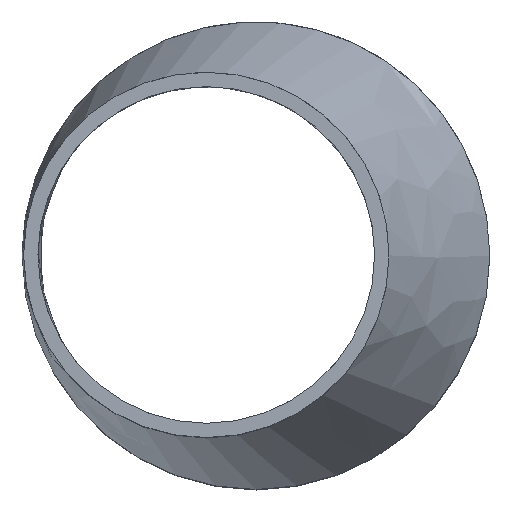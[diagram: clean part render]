
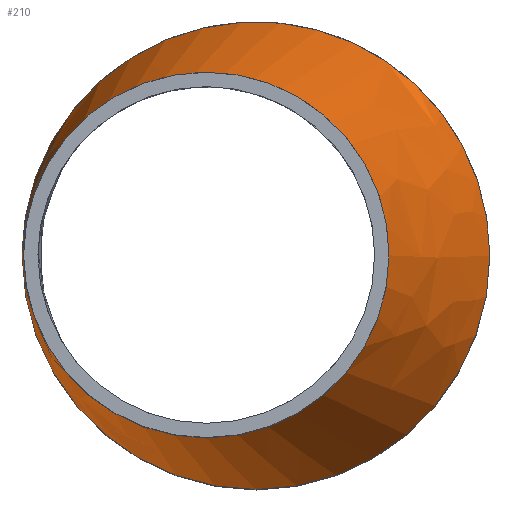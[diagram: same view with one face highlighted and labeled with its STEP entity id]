
A CAD part, top view. The second image highlights one B-rep face of the part: STEP entity #210.
In plain terms, the highlighted free-form (B-spline) face has degree [1, 2] with [2, 9] control points.
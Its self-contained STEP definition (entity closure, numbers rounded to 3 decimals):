
#15=B_SPLINE_CURVE_WITH_KNOTS($,1,(#401,#402),.UNSPECIFIED.,.F.,.F.,(2,
2),(-0.878,0.),.UNSPECIFIED.);
#17=(
BOUNDED_SURFACE()
B_SPLINE_SURFACE(1,2,((#379,#380,#381,#382,#383,#384,#385,#386,#387),(#388,
#389,#390,#391,#392,#393,#394,#395,#396)),.UNSPECIFIED.,.F.,.T.,.F.)
B_SPLINE_SURFACE_WITH_KNOTS((2,2),(3,2,2,2,3),(-0.258,1.061),
(-3.142,-1.571,0.,1.571,3.142),
 .UNSPECIFIED.)
GEOMETRIC_REPRESENTATION_ITEM()
RATIONAL_B_SPLINE_SURFACE(((1.,0.707,1.,0.707,1.,
0.707,1.,0.707,1.),(1.,0.707,1.,0.707,
1.,0.707,1.,0.707,1.)))
REPRESENTATION_ITEM($)
SURFACE()
);
#47=FACE_OUTER_BOUND($,#67,.T.);
#67=EDGE_LOOP($,(#167,#168,#169,#170,#171,#172));
#83=CIRCLE($,#231,80.);
#84=CIRCLE($,#232,80.);
#93=CIRCLE($,#243,62.5);
#94=CIRCLE($,#244,62.5);
#103=VERTEX_POINT($,#337);
#104=VERTEX_POINT($,#338);
#113=VERTEX_POINT($,#397);
#114=VERTEX_POINT($,#398);
#123=EDGE_CURVE($,#103,#104,#83,.T.);
#124=EDGE_CURVE($,#104,#103,#84,.T.);
#134=EDGE_CURVE($,#113,#114,#93,.T.);
#135=EDGE_CURVE($,#114,#113,#94,.T.);
#136=EDGE_CURVE($,#114,#104,#15,.T.);
#167=ORIENTED_EDGE($,*,*,#134,.F.);
#168=ORIENTED_EDGE($,*,*,#135,.F.);
#169=ORIENTED_EDGE($,*,*,#136,.T.);
#170=ORIENTED_EDGE($,*,*,#123,.F.);
#171=ORIENTED_EDGE($,*,*,#124,.F.);
#172=ORIENTED_EDGE($,*,*,#136,.F.);
#210=ADVANCED_FACE($,(#47),#17,.F.);
#231=AXIS2_PLACEMENT_3D($,#339,#278,#279);
#232=AXIS2_PLACEMENT_3D($,#340,#280,#281);
#243=AXIS2_PLACEMENT_3D($,#399,#302,#303);
#244=AXIS2_PLACEMENT_3D($,#400,#304,#305);
#278=DIRECTION('center_axis',(0.,0.,-1.));
#279=DIRECTION('ref_axis',(-1.,0.,0.));
#280=DIRECTION('center_axis',(0.,0.,-1.));
#281=DIRECTION('ref_axis',(-1.,0.,0.));
#302=DIRECTION('center_axis',(0.,0.,1.));
#303=DIRECTION('ref_axis',(-1.,0.,0.));
#304=DIRECTION('center_axis',(0.,0.,1.));
#305=DIRECTION('ref_axis',(-1.,0.,0.));
#337=CARTESIAN_POINT('',(80.,0.,94.));
#338=CARTESIAN_POINT('',(-4.824,79.854,94.));
#339=CARTESIAN_POINT('Origin',(0.,0.,94.));
#340=CARTESIAN_POINT('Origin',(0.,0.,94.));
#379=CARTESIAN_POINT('Ctrl Pts',(-0.147,84.979,74.638));
#380=CARTESIAN_POINT('Ctrl Pts',(-80.293,84.979,55.275));
#381=CARTESIAN_POINT('Ctrl Pts',(-80.293,0.,
55.275));
#382=CARTESIAN_POINT('Ctrl Pts',(-80.293,-84.979,55.275));
#383=CARTESIAN_POINT('Ctrl Pts',(-0.147,-84.979,74.638));
#384=CARTESIAN_POINT('Ctrl Pts',(80.,-84.979,94.));
#385=CARTESIAN_POINT('Ctrl Pts',(80.,0.,94.));
#386=CARTESIAN_POINT('Ctrl Pts',(80.,84.979,94.));
#387=CARTESIAN_POINT('Ctrl Pts',(-0.147,84.979,74.638));
#388=CARTESIAN_POINT('Ctrl Pts',(-24.088,58.751,173.736));
#389=CARTESIAN_POINT('Ctrl Pts',(-79.497,58.751,160.35));
#390=CARTESIAN_POINT('Ctrl Pts',(-79.497,0.,
160.35));
#391=CARTESIAN_POINT('Ctrl Pts',(-79.497,-58.751,160.35));
#392=CARTESIAN_POINT('Ctrl Pts',(-24.088,-58.751,173.736));
#393=CARTESIAN_POINT('Ctrl Pts',(31.322,-58.751,187.123));
#394=CARTESIAN_POINT('Ctrl Pts',(31.322,0.,
187.123));
#395=CARTESIAN_POINT('Ctrl Pts',(31.322,58.751,187.123));
#396=CARTESIAN_POINT('Ctrl Pts',(-24.088,58.751,173.736));
#397=CARTESIAN_POINT('',(45.5,0.,160.));
#398=CARTESIAN_POINT('',(-20.769,62.386,160.));
#399=CARTESIAN_POINT('Origin',(-17.,0.,160.));
#400=CARTESIAN_POINT('Origin',(-17.,0.,160.));
#401=CARTESIAN_POINT('Ctrl Pts',(-20.769,62.386,160.));
#402=CARTESIAN_POINT('Ctrl Pts',(-4.824,79.854,94.));
